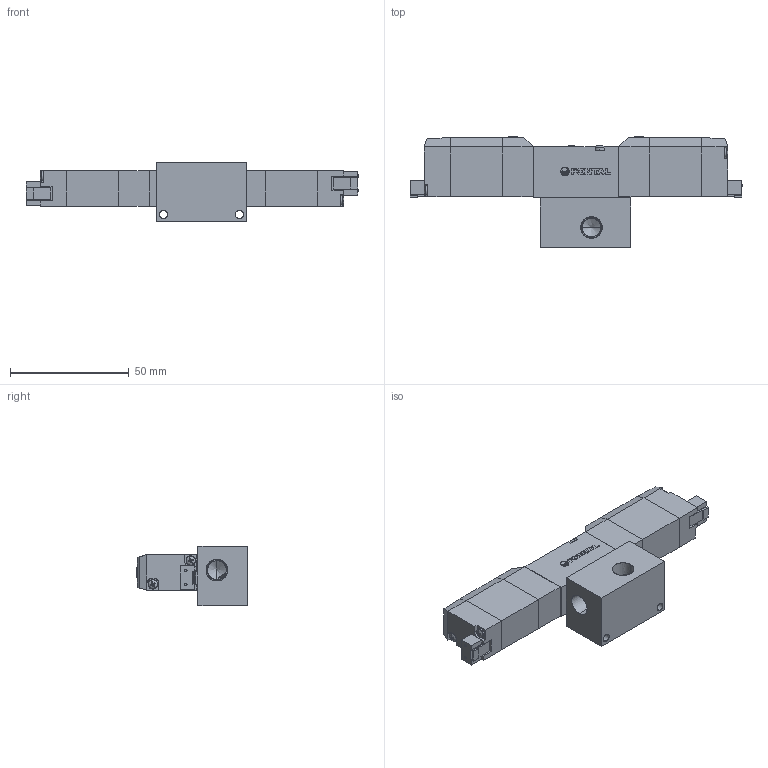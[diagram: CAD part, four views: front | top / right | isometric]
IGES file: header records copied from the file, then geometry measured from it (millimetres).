
Start section: SolidWorks IGES file using analytic representation for surfaces
Global section: file name: D:\Custom\3D繪製\PC\PC5\PCD345#-01-#-SP-#.IGS,1; native system: 5HSolidWorks 2014; preprocessor: SolidWorks 2014; author: Chieh_Lu; date: 150729.232119; units: millimetre
Bounding box: 140 x 47 x 25 mm (x, y, z)
Surface area: 25003 mm2 (no closed solid volume)
Topology: 0 solids, 0 shells, 635 faces, 5674 edges, 5648 vertices
Faces by surface type: bspline 428, revolution 207
